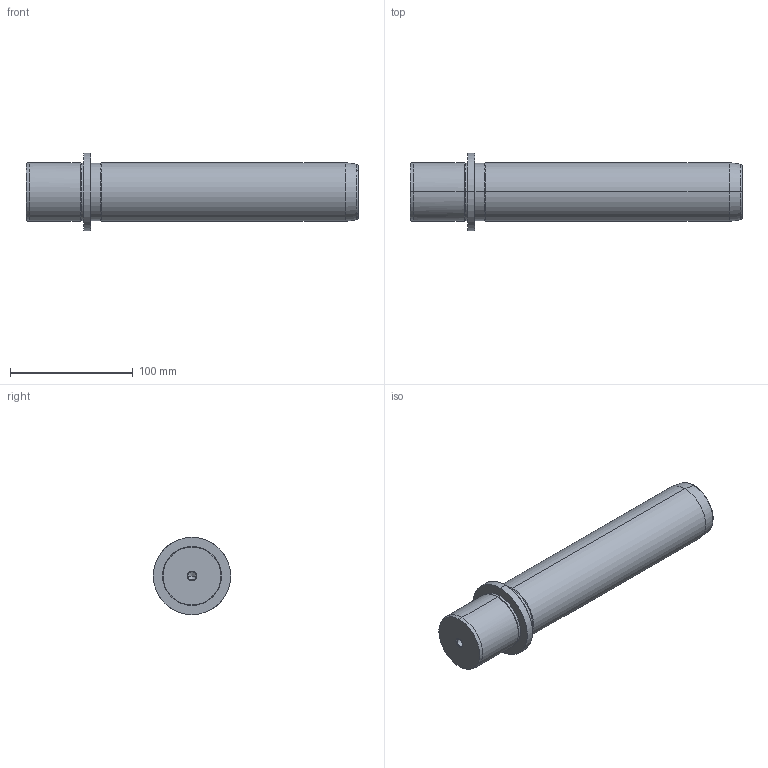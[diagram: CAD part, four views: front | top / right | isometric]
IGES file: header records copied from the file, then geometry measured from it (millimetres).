
Start section: START RECORD GO HERE.
Global section: file name: 718-48x224.igs; native system: DASSAULT SYSTEMES CATIA V5 R20 - www.3ds.com; preprocessor: CATIA Version 5 Release 20 ; author: Utente; organization: NB04-ASUS; date: 20210102.133313; units: millimetre
Bounding box: 271 x 63 x 63 mm (x, y, z)
Surface area: 48191.6 mm2 (no closed solid volume)
Topology: 0 solids, 0 shells, 36 faces, 196 edges, 192 vertices
Faces by surface type: revolution 32, plane 4
